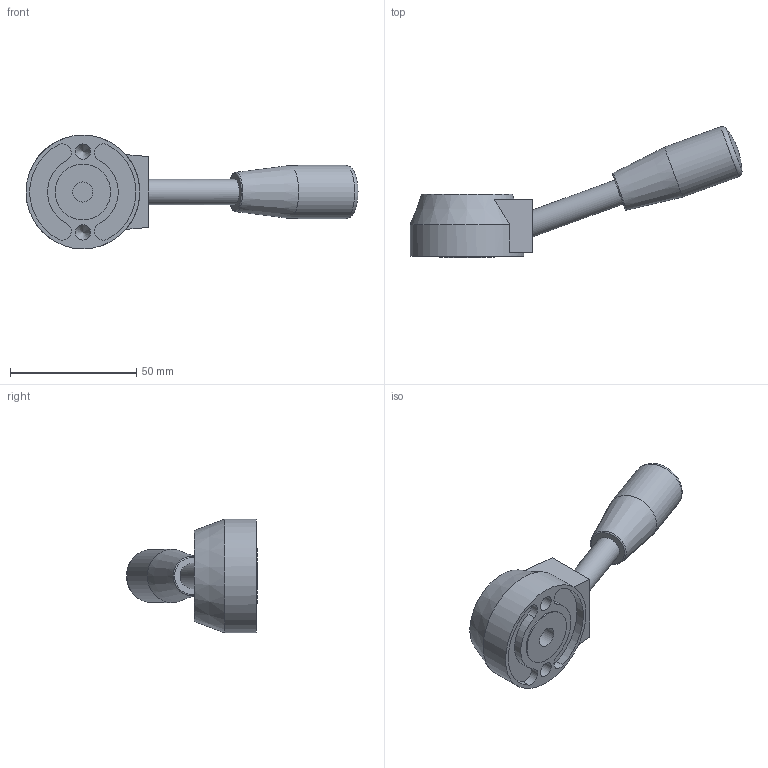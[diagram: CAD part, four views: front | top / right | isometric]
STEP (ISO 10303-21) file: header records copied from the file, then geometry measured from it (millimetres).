
FILE_DESCRIPTION( ( 'STEP AP203' ), '1' );
FILE_NAME( 'C:/Temp/Ganter_Step_05_03_2020/data/2_1/gn_512/gn_512_b/Control lever GN 512-45-B8.stp', '2020-03-05T11:51:36', ( 'License CC BY-ND 4.0' ), ( 'CADENAS' ), ' ', 'PARTsolutions', ' ' );
FILE_SCHEMA( ( 'CONFIG_CONTROL_DESIGN' ) );
Length unit declared in the file: millimetre
Products named in the file (1): _Control lever GN 512-45-B8
Bounding box: 131.34 x 51.82 x 45 mm (x, y, z)
Volume: 52862.4 mm3; surface area: 13142.5 mm2
Topology: 1 solids, 1 shells, 36 faces, 80 edges, 52 vertices
Faces by surface type: cylinder 16, plane 13, cone 4, torus 2, sphere 1
Full cylindrical faces by diameter (mm): 6 x2, 8 x1, 10 x1, 21 x1, 22 x1, 25 x1, 45 x1
Entity records: 938 total; most frequent: DIRECTION 168, CARTESIAN_POINT 157, ORIENTED_EDGE 116, AXIS2_PLACEMENT_3D 75, EDGE_CURVE 58, EDGE_LOOP 57, VERTEX_POINT 48, FACE_OUTER_BOUND 46
